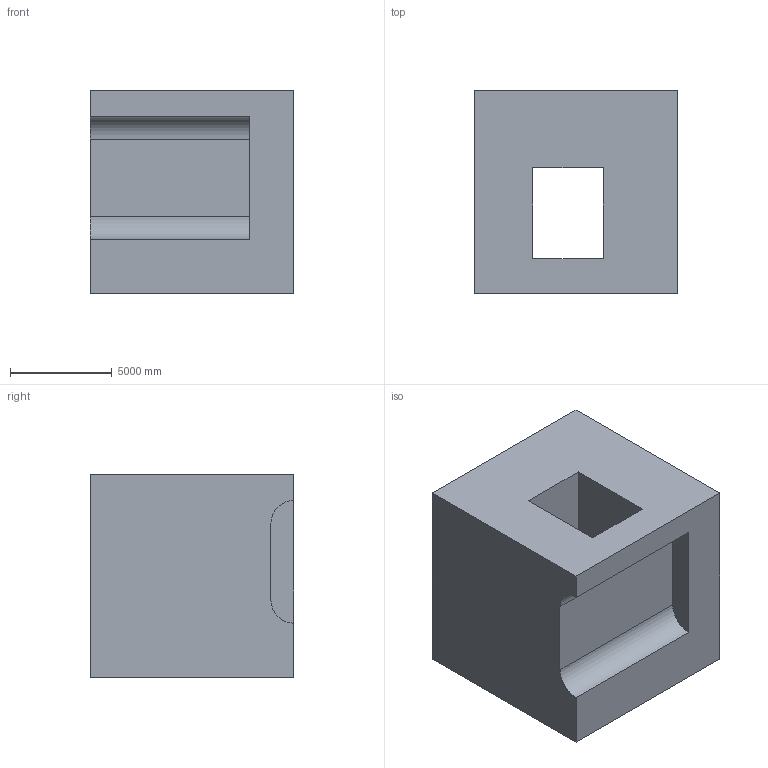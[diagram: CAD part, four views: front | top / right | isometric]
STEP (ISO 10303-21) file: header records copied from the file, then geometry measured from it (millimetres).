
FILE_DESCRIPTION (( 'STEP AP203' ), '1' );
FILE_NAME ('55.STEP', '2022-08-31T11:19:05', ( 'user' ), ( '' ), 'SwSTEP 2.0', 'SolidWorks 2021', '' );
FILE_SCHEMA (( 'CONFIG_CONTROL_DESIGN' ));
Length unit declared in the file: centimetre
Products named in the file (1): 55
Bounding box: 10000 x 10000 x 10000 mm (x, y, z)
Volume: 772307533703.2 mm3; surface area: 777481849.6 mm2
Topology: 1 solids, 1 shells, 20 faces, 48 edges, 32 vertices
Faces by surface type: plane 14, cylinder 6
Entity records: 665 total; most frequent: DIRECTION 102, CARTESIAN_POINT 101, ORIENTED_EDGE 96, EDGE_CURVE 48, LINE 36, VECTOR 36, AXIS2_PLACEMENT_3D 33, VERTEX_POINT 32
